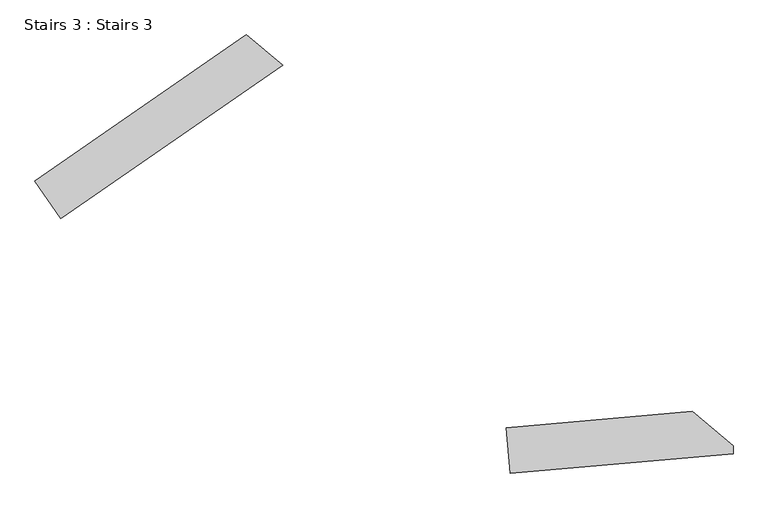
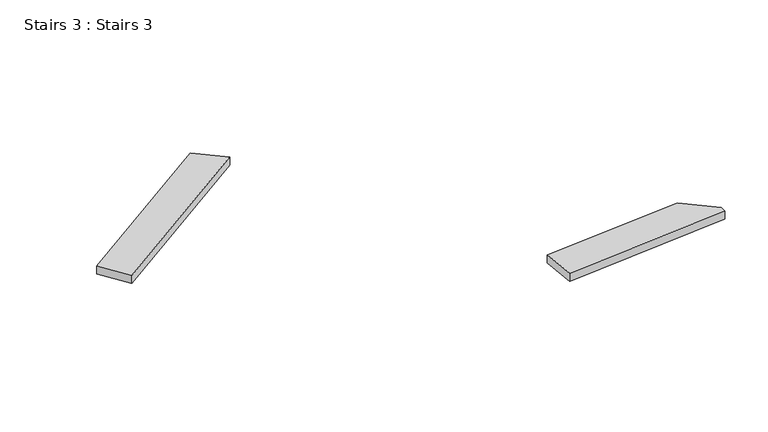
"""IFC4 building model written with IfcOpenShell, lengths in millimetres: stair geometry, Stairs 3 : Stairs 3."""

import ifcopenshell
import ifcopenshell.guid

model = None  # the IFC model being written
_history = None  # IfcOwnerHistory: only IFC2X3 demands one
_inside = {}  # id of a spatial element -> (the spatial element, [elements in it])
_under = {}  # id of a project, library or spatial element -> (it, [spatial elements below it])
_declared = {}  # id of a project -> (the project, [libraries it declares])
_typed = {}  # id of a type object -> (the type object, [elements of that type])
_made_of = {}  # id of a material, layer set ... -> (it, [elements and type objects made of it])


def new_model(schema):
    """Start an empty IFC model of exactly this schema.

    Asked for "IFC4X3", IfcOpenShell would pick the latest addendum, in which some entities
    have other attributes; the version numbers below select the first issue.
    IFC2X3 requires an IfcOwnerHistory on every rooted entity: one is made here for all.
    """
    global model, _history
    if schema == "IFC4X3":
        model = ifcopenshell.file(schema_version=(4, 3, 0, 0))
    else:
        model = ifcopenshell.file(schema=schema)
    _inside.clear()
    _under.clear()
    _declared.clear()
    _typed.clear()
    _made_of.clear()
    _history = None
    if model.schema == "IFC2X3":
        org = make("IfcOrganization", Name="unknown")
        user = make(
            "IfcPersonAndOrganization",
            ThePerson=make("IfcPerson", FamilyName="unknown"),
            TheOrganization=org,
        )
        app = make(
            "IfcApplication",
            ApplicationDeveloper=org,
            Version="unknown",
            ApplicationFullName="unknown",
            ApplicationIdentifier="unknown",
        )
        _history = make(
            "IfcOwnerHistory",
            OwningUser=user,
            OwningApplication=app,
            ChangeAction="ADDED",
            CreationDate=0,
        )
    return model


def make(cls, **values):
    """One entity of the class cls with the attributes given. An attribute that is None is left unset."""
    return model.create_entity(
        cls, **{name: value for name, value in values.items() if value is not None}
    )


def rooted(cls, **values):
    """An entity with a GlobalId (a new one), such as an element, a storey or a relation."""
    return make(cls, GlobalId=ifcopenshell.guid.new(), OwnerHistory=_history, **values)


def si_unit(unit_type, name, prefix=None):
    """IfcSIUnit, for example si_unit("LENGTHUNIT", "METRE", prefix="MILLI")."""
    return make("IfcSIUnit", UnitType=unit_type, Prefix=prefix, Name=name)


def assignment(units):
    """IfcUnitAssignment: the units of a project."""
    return None if units is None else make("IfcUnitAssignment", Units=units)


def point(xyz):
    """IfcCartesianPoint."""
    return None if xyz is None else make("IfcCartesianPoint", Coordinates=xyz)


def direction(xyz):
    """IfcDirection."""
    return None if xyz is None else make("IfcDirection", DirectionRatios=xyz)


def frame(location, z_axis=None, x_axis=None):
    """IfcAxis2Placement3D, a coordinate frame: its origin and axes. An axis left out is left unset."""
    return make(
        "IfcAxis2Placement3D",
        Location=point(location),
        Axis=direction(z_axis),
        RefDirection=direction(x_axis),
    )


def origin():
    """The frame at (0, 0, 0) with its axes left unset."""
    return frame((0.0, 0.0, 0.0))


def origin_with_axes():
    """The frame at (0, 0, 0) with the z axis (0, 0, 1) and the x axis (1, 0, 0) written out."""
    return frame((0.0, 0.0, 0.0), z_axis=(0.0, 0.0, 1.0), x_axis=(1.0, 0.0, 0.0))


def place(relative_to, where):
    """IfcLocalPlacement: puts the frame where relative to a parent placement (None: the world)."""
    return make(
        "IfcLocalPlacement", PlacementRelTo=relative_to, RelativePlacement=where
    )


def context(
    kind, dimensions, precision=None, world=None, true_north=None, identifier=None
):
    """IfcGeometricRepresentationContext, for example the 3D "Model" context."""
    return make(
        "IfcGeometricRepresentationContext",
        ContextIdentifier=identifier,
        ContextType=kind,
        CoordinateSpaceDimension=dimensions,
        Precision=precision,
        WorldCoordinateSystem=world,
        TrueNorth=true_north,
    )


def project(units=None, contexts=None):
    """IfcProject with its units and contexts."""
    return rooted(
        "IfcProject",
        Name="project",
        RepresentationContexts=contexts,
        UnitsInContext=assignment(units),
    )


def spatial(cls, under=None, at=None, **own):
    """A site, building, storey or space (cls), placed at a placement, below another one or the project."""
    s = rooted(cls, ObjectPlacement=at, **own)
    if under is not None:
        _under.setdefault(under.id(), (under, []))[1].append(s)
    return s


def polyline(points):
    """IfcPolyline through the points."""
    return make("IfcPolyline", Points=[point(p) for p in points])


def outline(outer, holes=None, kind="AREA"):
    """IfcArbitraryClosedProfileDef: a profile drawn as a closed curve; with holes, ...WithVoids."""
    if holes is None:
        return make("IfcArbitraryClosedProfileDef", ProfileType=kind, OuterCurve=outer)
    return make(
        "IfcArbitraryProfileDefWithVoids",
        ProfileType=kind,
        OuterCurve=outer,
        InnerCurves=holes,
    )


def extrude(swept, where, along, depth):
    """IfcExtrudedAreaSolid: the profile swept, set in the frame where, extruded along a direction by depth."""
    return make(
        "IfcExtrudedAreaSolid",
        SweptArea=swept,
        Position=where,
        ExtrudedDirection=direction(along),
        Depth=depth,
    )


def shape(context_of_items, identifier, shape_type, items):
    """IfcShapeRepresentation: the items that make up one representation, for example the "Body"."""
    return make(
        "IfcShapeRepresentation",
        ContextOfItems=context_of_items,
        RepresentationIdentifier=identifier,
        RepresentationType=shape_type,
        Items=items,
    )


def source(mapping_origin, context_of_items, identifier, shape_type, items):
    """IfcRepresentationMap: a shape defined once, which mapped items show again and again."""
    return make(
        "IfcRepresentationMap",
        MappingOrigin=mapping_origin,
        MappedRepresentation=shape(context_of_items, identifier, shape_type, items),
    )


def transform(
    local_origin,
    x_axis=None,
    y_axis=None,
    z_axis=None,
    scale=None,
    scale2=None,
    scale3=None,
    uniform=True,
):
    """IfcCartesianTransformationOperator3D, or its non-uniform kind. x_axis, y_axis, z_axis: its Axis1, 2, 3."""
    if uniform:
        return make(
            "IfcCartesianTransformationOperator3D",
            Axis1=direction(x_axis),
            Axis2=direction(y_axis),
            LocalOrigin=point(local_origin),
            Scale=scale,
            Axis3=direction(z_axis),
        )
    return make(
        "IfcCartesianTransformationOperator3DnonUniform",
        Axis1=direction(x_axis),
        Axis2=direction(y_axis),
        LocalOrigin=point(local_origin),
        Scale=scale,
        Axis3=direction(z_axis),
        Scale2=scale2,
        Scale3=scale3,
    )


def mapped(mapping_source, mapping_target):
    """IfcMappedItem: shows the shape of a source again, moved by a transform."""
    return make(
        "IfcMappedItem", MappingSource=mapping_source, MappingTarget=mapping_target
    )


def made_of(thing, what):
    """Note that an element or type object is made of a material, layer set ...; save() writes the relation."""
    if what is not None:
        _made_of.setdefault(what.id(), (what, []))[1].append(thing)
    return thing


def element(
    cls,
    number,
    at=None,
    inside=None,
    cuts=None,
    type_object=None,
    material=None,
    context=None,
    identifier="Body",
    shape_type=None,
    held_by="IfcProductDefinitionShape",
    body=None,
    shapes=None,
    **own,
):
    """One element of the class cls, such as IfcWall. Its Tag is "e" and its number.

    at: its placement. inside: the storey or other place that contains it. cuts: it is an
    opening in that element (IfcRelVoidsElement). A single representation is given by context,
    identifier, shape_type and body (its items); several are given by shapes. held_by: the class
    of the entity that holds the representations. save() writes the other relations.
    """
    e = rooted(cls, Tag="e%d" % number, ObjectPlacement=at, **own)
    if body is not None:
        shapes = [shape(context, identifier, shape_type, body)]
    if shapes is not None:
        e.Representation = make(held_by, Representations=shapes)
    if inside is not None:
        _inside.setdefault(inside.id(), (inside, []))[1].append(e)
    if cuts is not None:
        rooted(
            "IfcRelVoidsElement", RelatingBuildingElement=cuts, RelatedOpeningElement=e
        )
    if type_object is not None:
        _typed.setdefault(type_object.id(), (type_object, []))[1].append(e)
    return made_of(e, material)


def aggregate(whole, parts):
    """IfcRelAggregates: a whole, such as a stair, and the parts it consists of."""
    return rooted("IfcRelAggregates", RelatingObject=whole, RelatedObjects=parts)


def save(model, path):
    """Write the relations noted so far, then the file.

    IfcRelAggregates (storeys below a building ...), IfcRelContainedInSpatialStructure (elements
    in a storey), IfcRelDefinesByType, IfcRelAssociatesMaterial and IfcRelDeclares: one each for
    every whole, place, type object, material and project.
    """
    for whole, parts in _under.values():
        aggregate(whole, parts)
    for where, things in _inside.values():
        rooted(
            "IfcRelContainedInSpatialStructure",
            RelatedElements=things,
            RelatingStructure=where,
        )
    for kind, things in _typed.values():
        rooted("IfcRelDefinesByType", RelatedObjects=things, RelatingType=kind)
    for what, things in _made_of.values():
        rooted("IfcRelAssociatesMaterial", RelatedObjects=things, RelatingMaterial=what)
    for by, libraries in _declared.values():
        rooted("IfcRelDeclares", RelatingContext=by, RelatedDefinitions=libraries)
    model.write(path)


def stairs_3_stairs_3_b246aefd(model_context):
    return source(origin(), model_context, "Body", "SweptSolid", [
        extrude(outline(polyline([(-4387.1273776, 6840.6485938), (-4728.4860545, 7334.079697), (-1951.1101919, 9255.4854285), (-1476.3282137, 8854.3573869), (-4387.1273776, 6840.6485938)])), origin_with_axes(), (0.0, 0.0, 1.0), 150.0),
        extrude(outline(polyline([(1463.6393813, 4093.3300466), (3905.9917064, 4307.0081874), (4439.7682518, 3856.0375311), (4439.7682518, 3751.4156814), (1515.932827, 3495.6132277), (1463.6393813, 4093.3300466)])), origin_with_axes(), (0.0, 0.0, 1.0), 150.0),
    ])


if __name__ == "__main__":
    model = new_model("IFC4")
    model_context = context("Model", 3, world=origin())
    ifc_project = project(units=[si_unit("LENGTHUNIT", "METRE", prefix="MILLI")], contexts=[model_context])
    site = spatial("IfcSite", under=ifc_project)
    building = spatial("IfcBuilding", under=site)
    placement = place(None, origin())
    stairs_3_stairs_3_shape = stairs_3_stairs_3_b246aefd(model_context)
    element("IfcStair", 1, ObjectType="Stairs 3 : Stairs 3", at=placement, inside=building, context=model_context, shape_type="MappedRepresentation", body=[
        mapped(stairs_3_stairs_3_shape, transform((0.0, 0.0, 0.0), x_axis=(1.0, 0.0, 0.0), y_axis=(0.0, 1.0, 0.0), z_axis=(0.0, 0.0, 1.0))),
    ])
    save(model, "model.ifc")
